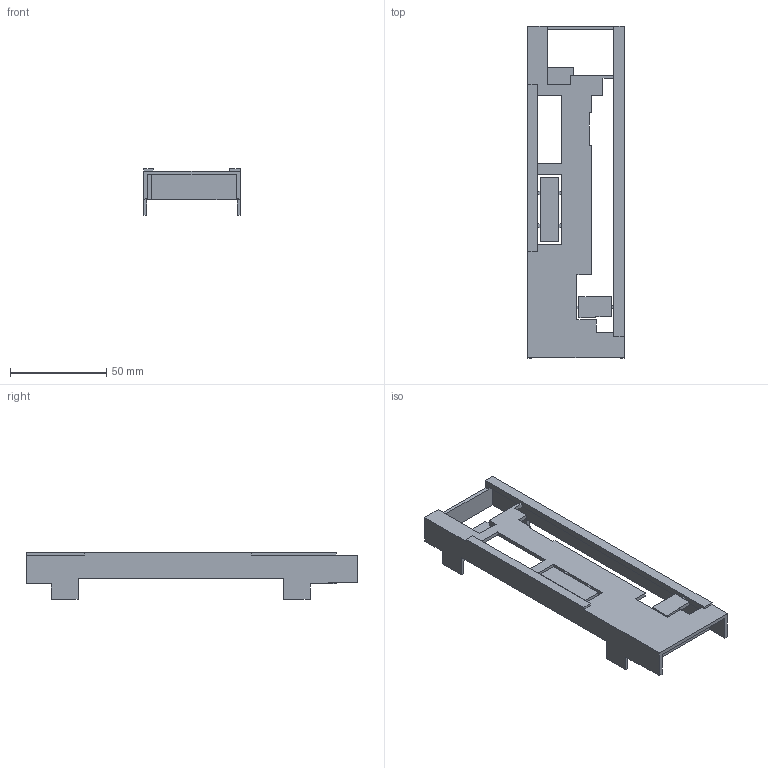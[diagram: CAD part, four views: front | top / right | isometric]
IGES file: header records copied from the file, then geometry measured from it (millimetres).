
Start section:  PTC IGES file: j4-du-700-22k-frontcover.igs
Global section: file name: j4-du-700-22k-frontcover.igs; native system: Creo Parametric by Parametric Technology Corporation; preprocessor: 2014310; author: JR20012; organization: Unknown; date: 20160927.133802; units: millimetre
Bounding box: 50 x 172.3 x 24.2 mm (x, y, z)
Volume: 23469.6 mm3; surface area: 26364.6 mm2
Topology: 1 solids, 1 shells, 118 faces, 360 edges, 240 vertices
Faces by surface type: bspline 118
